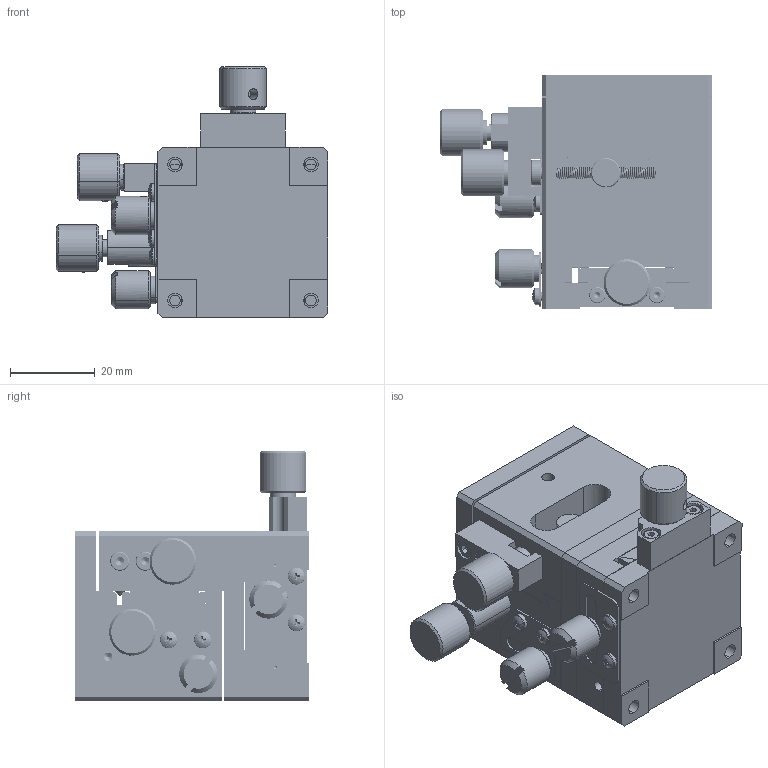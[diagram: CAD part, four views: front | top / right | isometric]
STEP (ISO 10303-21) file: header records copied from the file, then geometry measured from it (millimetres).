
FILE_DESCRIPTION (( 'STEP AP203' ), '1' );
FILE_NAME ('BWED40.STEP', '2024-02-26T12:30:38', ( 'China' ), ( 'Microsoft' ), 'SwSTEP 2.0', 'SolidWorks 2024', '' );
FILE_SCHEMA (( 'CONFIG_CONTROL_DESIGN' ));
Length unit declared in the file: millimetre
Products named in the file (1): BWED40
Bounding box: 64 x 55 x 59.05 mm (x, y, z)
Volume: 85408.1 mm3; surface area: 49861.3 mm2
Topology: 38 solids, 38 shells, 1450 faces, 3727 edges, 2360 vertices
Faces by surface type: cylinder 645, plane 540, cone 190, bspline 47, torus 20, sphere 8
Entity records: 170941 total; most frequent: CARTESIAN_POINT 136594, ORIENTED_EDGE 7314, DIRECTION 6749, EDGE_CURVE 3657, AXIS2_PLACEMENT_3D 2445, VERTEX_POINT 2360, VECTOR 1859, LINE 1859
